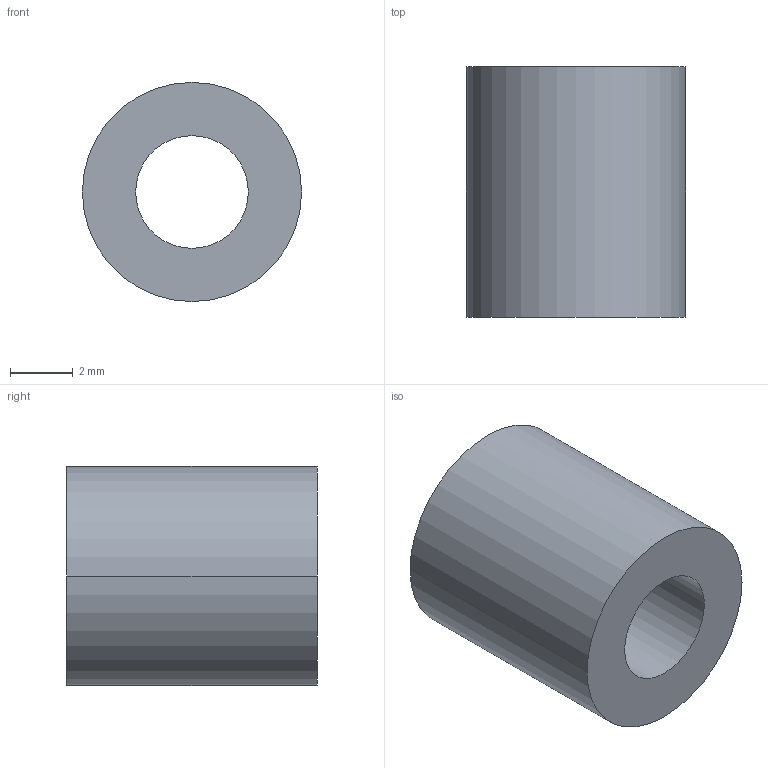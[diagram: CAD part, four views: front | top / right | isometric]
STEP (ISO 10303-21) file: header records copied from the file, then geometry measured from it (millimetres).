
FILE_DESCRIPTION (( 'STEP AP203' ), '1' );
FILE_NAME ('30800.WPP7B3.6.step', '2019-01-23T22:19:20', ( '' ), ( '' ), 'SwSTEP 2.0', 'SolidWorks 2017', '' );
FILE_SCHEMA (( 'CONFIG_CONTROL_DESIGN' ));
Length unit declared in the file: millimetre
Products named in the file (1): 30800.WPP7B3.6
Bounding box: 7 x 8 x 7 mm (x, y, z)
Volume: 223.7 mm3; surface area: 318.6 mm2
Topology: 1 solids, 1 shells, 8 faces, 16 edges, 10 vertices
Faces by surface type: cylinder 4, torus 2, plane 2
Entity records: 297 total; most frequent: DIRECTION 46, CARTESIAN_POINT 35, ORIENTED_EDGE 32, AXIS2_PLACEMENT_3D 21, EDGE_CURVE 16, CIRCLE 12, VERTEX_POINT 10, EDGE_LOOP 10
